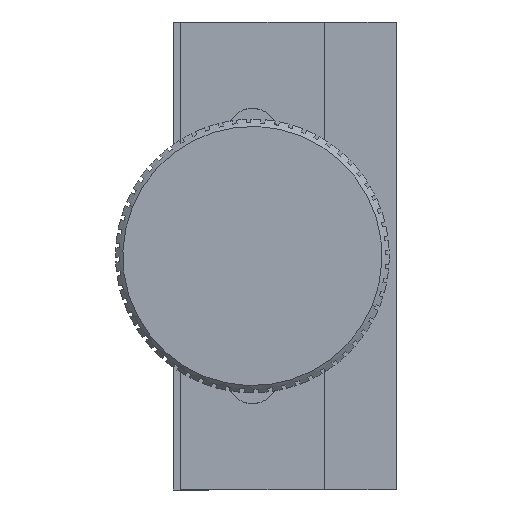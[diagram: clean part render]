
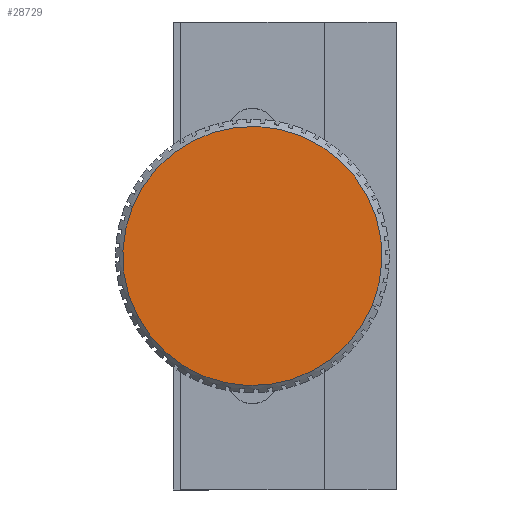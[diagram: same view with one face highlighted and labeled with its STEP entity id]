
A CAD part, left-side view. The second image highlights one B-rep face of the part: STEP entity #28729.
In plain terms, the highlighted planar face has unit normal (-1, 0, 0) as drawn and (1, 0, 0) by its records, which use the part's own axes.
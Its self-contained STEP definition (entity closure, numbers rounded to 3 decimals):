
#205 = DIRECTION ( 'NONE',  ( 0., 0., -1. ) ) ;
#1360 = EDGE_CURVE ( 'NONE', #44791, #21163, #29704, .T. ) ;
#7766 = EDGE_CURVE ( 'NONE', #21163, #44791, #31234, .T. ) ;
#13455 = CARTESIAN_POINT ( 'NONE',  ( 81.5, 20., 18. ) ) ;
#14697 = CARTESIAN_POINT ( 'NONE',  ( 81.5, 20., 0. ) ) ;
#16712 = CARTESIAN_POINT ( 'NONE',  ( 81.5, 20., 0. ) ) ;
#16812 = AXIS2_PLACEMENT_3D ( 'NONE', #14697, #21997, #205 ) ;
#16883 = AXIS2_PLACEMENT_3D ( 'NONE', #16712, #30864, #19967 ) ;
#18932 = FACE_OUTER_BOUND ( 'NONE', #33638, .T. ) ;
#19967 = DIRECTION ( 'NONE',  ( 0., 0., 1. ) ) ;
#21163 = VERTEX_POINT ( 'NONE', #36679 ) ;
#21563 = PLANE ( 'NONE',  #16812 ) ;
#21722 = DIRECTION ( 'NONE',  ( 1., 0., 0. ) ) ;
#21997 = DIRECTION ( 'NONE',  ( 1., 0., 0. ) ) ;
#27192 = AXIS2_PLACEMENT_3D ( 'NONE', #42885, #21722, #43500 ) ;
#28729 = ADVANCED_FACE ( 'NONE', ( #18932 ), #21563, .T. ) ;
#29704 = CIRCLE ( 'NONE', #27192, 18. ) ;
#30864 = DIRECTION ( 'NONE',  ( 1., 0., 0. ) ) ;
#31234 = CIRCLE ( 'NONE', #16883, 18. ) ;
#32672 = ORIENTED_EDGE ( 'NONE', *, *, #1360, .T. ) ;
#33638 = EDGE_LOOP ( 'NONE', ( #32672, #35374 ) ) ;
#35374 = ORIENTED_EDGE ( 'NONE', *, *, #7766, .T. ) ;
#36679 = CARTESIAN_POINT ( 'NONE',  ( 81.5, 20., -18. ) ) ;
#42885 = CARTESIAN_POINT ( 'NONE',  ( 81.5, 20., 0. ) ) ;
#43500 = DIRECTION ( 'NONE',  ( 0., 0., 1. ) ) ;
#44791 = VERTEX_POINT ( 'NONE', #13455 ) ;
